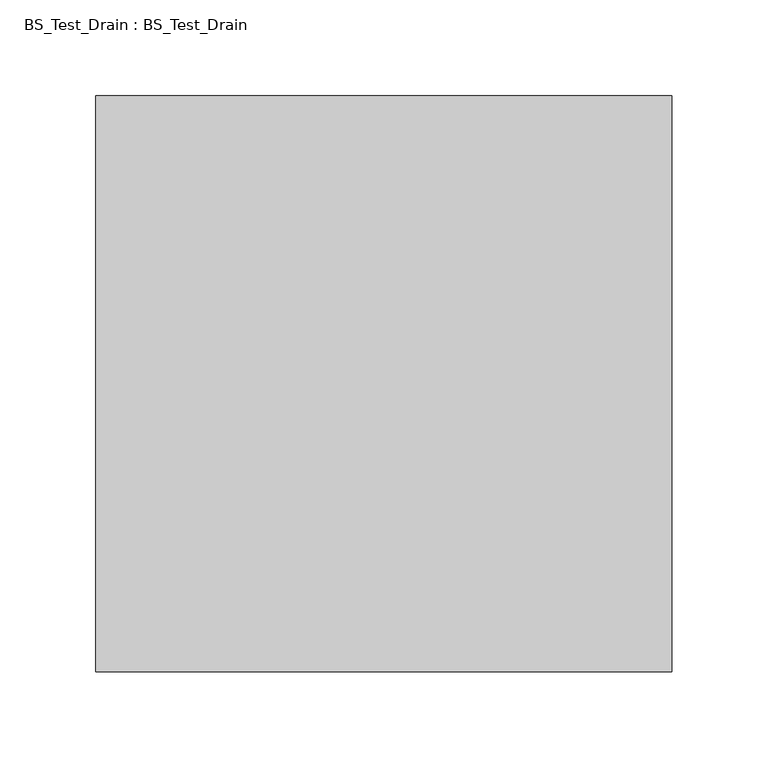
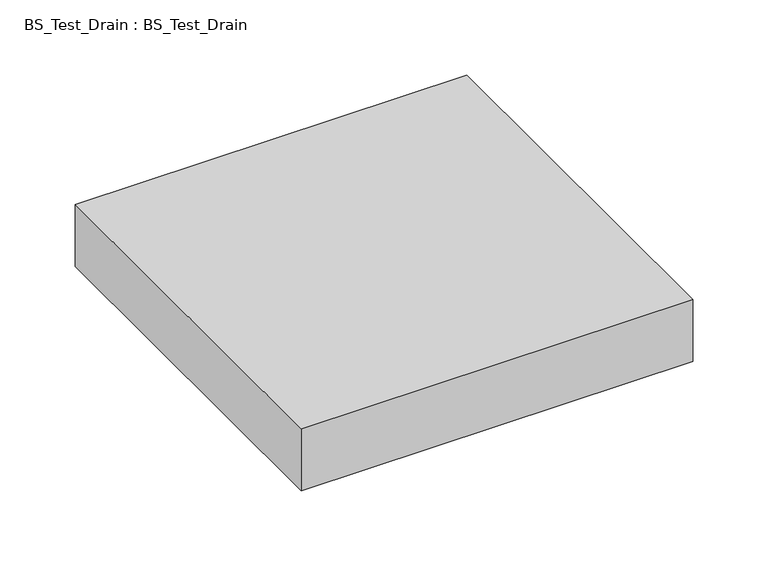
"""IFC4 building model written with IfcOpenShell, lengths in millimetres: flow terminal geometry, BS_Test_Drain : BS_Test_Drain."""

import ifcopenshell
import ifcopenshell.guid

model = None  # the IFC model being written
_history = None  # IfcOwnerHistory: only IFC2X3 demands one
_inside = {}  # id of a spatial element -> (the spatial element, [elements in it])
_under = {}  # id of a project, library or spatial element -> (it, [spatial elements below it])
_declared = {}  # id of a project -> (the project, [libraries it declares])
_typed = {}  # id of a type object -> (the type object, [elements of that type])
_made_of = {}  # id of a material, layer set ... -> (it, [elements and type objects made of it])


def new_model(schema):
    """Start an empty IFC model of exactly this schema.

    Asked for "IFC4X3", IfcOpenShell would pick the latest addendum, in which some entities
    have other attributes; the version numbers below select the first issue.
    IFC2X3 requires an IfcOwnerHistory on every rooted entity: one is made here for all.
    """
    global model, _history
    if schema == "IFC4X3":
        model = ifcopenshell.file(schema_version=(4, 3, 0, 0))
    else:
        model = ifcopenshell.file(schema=schema)
    _inside.clear()
    _under.clear()
    _declared.clear()
    _typed.clear()
    _made_of.clear()
    _history = None
    if model.schema == "IFC2X3":
        org = make("IfcOrganization", Name="unknown")
        user = make(
            "IfcPersonAndOrganization",
            ThePerson=make("IfcPerson", FamilyName="unknown"),
            TheOrganization=org,
        )
        app = make(
            "IfcApplication",
            ApplicationDeveloper=org,
            Version="unknown",
            ApplicationFullName="unknown",
            ApplicationIdentifier="unknown",
        )
        _history = make(
            "IfcOwnerHistory",
            OwningUser=user,
            OwningApplication=app,
            ChangeAction="ADDED",
            CreationDate=0,
        )
    return model


def make(cls, **values):
    """One entity of the class cls with the attributes given. An attribute that is None is left unset."""
    return model.create_entity(
        cls, **{name: value for name, value in values.items() if value is not None}
    )


def rooted(cls, **values):
    """An entity with a GlobalId (a new one), such as an element, a storey or a relation."""
    return make(cls, GlobalId=ifcopenshell.guid.new(), OwnerHistory=_history, **values)


def si_unit(unit_type, name, prefix=None):
    """IfcSIUnit, for example si_unit("LENGTHUNIT", "METRE", prefix="MILLI")."""
    return make("IfcSIUnit", UnitType=unit_type, Prefix=prefix, Name=name)


def assignment(units):
    """IfcUnitAssignment: the units of a project."""
    return None if units is None else make("IfcUnitAssignment", Units=units)


def point(xyz):
    """IfcCartesianPoint."""
    return None if xyz is None else make("IfcCartesianPoint", Coordinates=xyz)


def direction(xyz):
    """IfcDirection."""
    return None if xyz is None else make("IfcDirection", DirectionRatios=xyz)


def frame(location, z_axis=None, x_axis=None):
    """IfcAxis2Placement3D, a coordinate frame: its origin and axes. An axis left out is left unset."""
    return make(
        "IfcAxis2Placement3D",
        Location=point(location),
        Axis=direction(z_axis),
        RefDirection=direction(x_axis),
    )


def origin():
    """The frame at (0, 0, 0) with its axes left unset."""
    return frame((0.0, 0.0, 0.0))


def origin_with_axes():
    """The frame at (0, 0, 0) with the z axis (0, 0, 1) and the x axis (1, 0, 0) written out."""
    return frame((0.0, 0.0, 0.0), z_axis=(0.0, 0.0, 1.0), x_axis=(1.0, 0.0, 0.0))


def place(relative_to, where):
    """IfcLocalPlacement: puts the frame where relative to a parent placement (None: the world)."""
    return make(
        "IfcLocalPlacement", PlacementRelTo=relative_to, RelativePlacement=where
    )


def context(
    kind, dimensions, precision=None, world=None, true_north=None, identifier=None
):
    """IfcGeometricRepresentationContext, for example the 3D "Model" context."""
    return make(
        "IfcGeometricRepresentationContext",
        ContextIdentifier=identifier,
        ContextType=kind,
        CoordinateSpaceDimension=dimensions,
        Precision=precision,
        WorldCoordinateSystem=world,
        TrueNorth=true_north,
    )


def project(units=None, contexts=None):
    """IfcProject with its units and contexts."""
    return rooted(
        "IfcProject",
        Name="project",
        RepresentationContexts=contexts,
        UnitsInContext=assignment(units),
    )


def spatial(cls, under=None, at=None, **own):
    """A site, building, storey or space (cls), placed at a placement, below another one or the project."""
    s = rooted(cls, ObjectPlacement=at, **own)
    if under is not None:
        _under.setdefault(under.id(), (under, []))[1].append(s)
    return s


def polyline(points):
    """IfcPolyline through the points."""
    return make("IfcPolyline", Points=[point(p) for p in points])


def outline(outer, holes=None, kind="AREA"):
    """IfcArbitraryClosedProfileDef: a profile drawn as a closed curve; with holes, ...WithVoids."""
    if holes is None:
        return make("IfcArbitraryClosedProfileDef", ProfileType=kind, OuterCurve=outer)
    return make(
        "IfcArbitraryProfileDefWithVoids",
        ProfileType=kind,
        OuterCurve=outer,
        InnerCurves=holes,
    )


def extrude(swept, where, along, depth):
    """IfcExtrudedAreaSolid: the profile swept, set in the frame where, extruded along a direction by depth."""
    return make(
        "IfcExtrudedAreaSolid",
        SweptArea=swept,
        Position=where,
        ExtrudedDirection=direction(along),
        Depth=depth,
    )


def shape(context_of_items, identifier, shape_type, items):
    """IfcShapeRepresentation: the items that make up one representation, for example the "Body"."""
    return make(
        "IfcShapeRepresentation",
        ContextOfItems=context_of_items,
        RepresentationIdentifier=identifier,
        RepresentationType=shape_type,
        Items=items,
    )


def source(mapping_origin, context_of_items, identifier, shape_type, items):
    """IfcRepresentationMap: a shape defined once, which mapped items show again and again."""
    return make(
        "IfcRepresentationMap",
        MappingOrigin=mapping_origin,
        MappedRepresentation=shape(context_of_items, identifier, shape_type, items),
    )


def transform(
    local_origin,
    x_axis=None,
    y_axis=None,
    z_axis=None,
    scale=None,
    scale2=None,
    scale3=None,
    uniform=True,
):
    """IfcCartesianTransformationOperator3D, or its non-uniform kind. x_axis, y_axis, z_axis: its Axis1, 2, 3."""
    if uniform:
        return make(
            "IfcCartesianTransformationOperator3D",
            Axis1=direction(x_axis),
            Axis2=direction(y_axis),
            LocalOrigin=point(local_origin),
            Scale=scale,
            Axis3=direction(z_axis),
        )
    return make(
        "IfcCartesianTransformationOperator3DnonUniform",
        Axis1=direction(x_axis),
        Axis2=direction(y_axis),
        LocalOrigin=point(local_origin),
        Scale=scale,
        Axis3=direction(z_axis),
        Scale2=scale2,
        Scale3=scale3,
    )


def mapped(mapping_source, mapping_target):
    """IfcMappedItem: shows the shape of a source again, moved by a transform."""
    return make(
        "IfcMappedItem", MappingSource=mapping_source, MappingTarget=mapping_target
    )


def made_of(thing, what):
    """Note that an element or type object is made of a material, layer set ...; save() writes the relation."""
    if what is not None:
        _made_of.setdefault(what.id(), (what, []))[1].append(thing)
    return thing


def element(
    cls,
    number,
    at=None,
    inside=None,
    cuts=None,
    type_object=None,
    material=None,
    context=None,
    identifier="Body",
    shape_type=None,
    held_by="IfcProductDefinitionShape",
    body=None,
    shapes=None,
    **own,
):
    """One element of the class cls, such as IfcWall. Its Tag is "e" and its number.

    at: its placement. inside: the storey or other place that contains it. cuts: it is an
    opening in that element (IfcRelVoidsElement). A single representation is given by context,
    identifier, shape_type and body (its items); several are given by shapes. held_by: the class
    of the entity that holds the representations. save() writes the other relations.
    """
    e = rooted(cls, Tag="e%d" % number, ObjectPlacement=at, **own)
    if body is not None:
        shapes = [shape(context, identifier, shape_type, body)]
    if shapes is not None:
        e.Representation = make(held_by, Representations=shapes)
    if inside is not None:
        _inside.setdefault(inside.id(), (inside, []))[1].append(e)
    if cuts is not None:
        rooted(
            "IfcRelVoidsElement", RelatingBuildingElement=cuts, RelatedOpeningElement=e
        )
    if type_object is not None:
        _typed.setdefault(type_object.id(), (type_object, []))[1].append(e)
    return made_of(e, material)


def aggregate(whole, parts):
    """IfcRelAggregates: a whole, such as a stair, and the parts it consists of."""
    return rooted("IfcRelAggregates", RelatingObject=whole, RelatedObjects=parts)


def save(model, path):
    """Write the relations noted so far, then the file.

    IfcRelAggregates (storeys below a building ...), IfcRelContainedInSpatialStructure (elements
    in a storey), IfcRelDefinesByType, IfcRelAssociatesMaterial and IfcRelDeclares: one each for
    every whole, place, type object, material and project.
    """
    for whole, parts in _under.values():
        aggregate(whole, parts)
    for where, things in _inside.values():
        rooted(
            "IfcRelContainedInSpatialStructure",
            RelatedElements=things,
            RelatingStructure=where,
        )
    for kind, things in _typed.values():
        rooted("IfcRelDefinesByType", RelatedObjects=things, RelatingType=kind)
    for what, things in _made_of.values():
        rooted("IfcRelAssociatesMaterial", RelatedObjects=things, RelatingMaterial=what)
    for by, libraries in _declared.values():
        rooted("IfcRelDeclares", RelatingContext=by, RelatedDefinitions=libraries)
    model.write(path)


def bs_test_drain_bs_test_drain_60730005(model_context):
    return source(origin(), model_context, "Body", "SweptSolid", [
        extrude(outline(polyline([(150.0, -150.0), (-150.0, -150.0), (-150.0, 150.0), (150.0, 150.0), (150.0, -150.0)])), origin_with_axes(), (0.0, 0.0, 1.0), 50.0),
    ])


if __name__ == "__main__":
    model = new_model("IFC4")
    model_context = context("Model", 3, world=origin())
    ifc_project = project(units=[si_unit("LENGTHUNIT", "METRE", prefix="MILLI")], contexts=[model_context])
    site = spatial("IfcSite", under=ifc_project)
    building = spatial("IfcBuilding", under=site)
    placement = place(None, origin())
    bs_test_drain_bs_test_drain_shape = bs_test_drain_bs_test_drain_60730005(model_context)
    element("IfcFlowTerminal", 1, ObjectType="BS_Test_Drain : BS_Test_Drain", at=placement, inside=building, context=model_context, shape_type="MappedRepresentation", body=[
        mapped(bs_test_drain_bs_test_drain_shape, transform((0.0, 0.0, 0.0), x_axis=(1.0, 0.0, 0.0), y_axis=(0.0, 1.0, 0.0), z_axis=(0.0, 0.0, 1.0))),
    ])
    save(model, "model.ifc")
